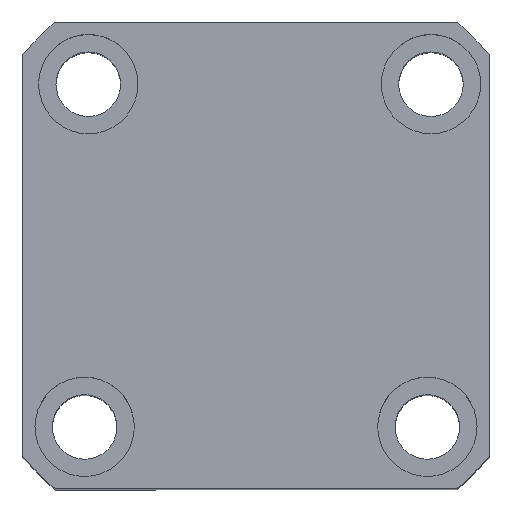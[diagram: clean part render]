
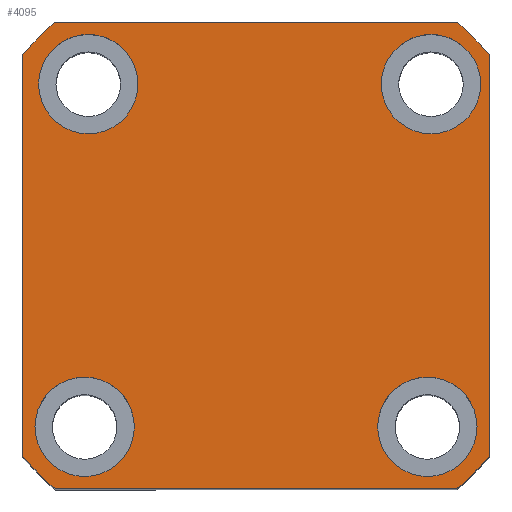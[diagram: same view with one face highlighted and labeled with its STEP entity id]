
A CAD part, top view. The second image highlights one B-rep face of the part: STEP entity #4095.
In plain terms, the highlighted planar face has unit normal (0, 0, 1) as drawn and (0, 0, -1) by its records, which use the part's own axes.
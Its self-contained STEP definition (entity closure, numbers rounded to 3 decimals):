
#58 = ORIENTED_EDGE ( 'NONE', *, *, #12241, .F. ) ;
#103 = ORIENTED_EDGE ( 'NONE', *, *, #7508, .F. ) ;
#140 = EDGE_LOOP ( 'NONE', ( #408, #8925 ) ) ;
#391 = AXIS2_PLACEMENT_3D ( 'NONE', #845, #10479, #2221 ) ;
#408 = ORIENTED_EDGE ( 'NONE', *, *, #485, .F. ) ;
#485 = EDGE_CURVE ( 'NONE', #13606, #10809, #4936, .T. ) ;
#517 = DIRECTION ( 'NONE',  ( -1., 0., 0. ) ) ;
#612 = EDGE_CURVE ( 'NONE', #14435, #7527, #15047, .T. ) ;
#819 = DIRECTION ( 'NONE',  ( 0., 0., 1. ) ) ;
#845 = CARTESIAN_POINT ( 'NONE',  ( -34.5, 34.5, 0. ) ) ;
#1232 = CIRCLE ( 'NONE', #9742, 10. ) ;
#1490 = CARTESIAN_POINT ( 'NONE',  ( -40.435, -47., 0. ) ) ;
#1512 = VERTEX_POINT ( 'NONE', #6858 ) ;
#1881 = AXIS2_PLACEMENT_3D ( 'NONE', #9570, #13726, #5485 ) ;
#1900 = CARTESIAN_POINT ( 'NONE',  ( -47., 47., 0. ) ) ;
#1910 = CIRCLE ( 'NONE', #17753, 62. ) ;
#1935 = VECTOR ( 'NONE', #16812, 1000. ) ;
#2221 = DIRECTION ( 'NONE',  ( -1., 0., 0. ) ) ;
#2270 = ORIENTED_EDGE ( 'NONE', *, *, #6097, .F. ) ;
#2274 = FACE_BOUND ( 'NONE', #14726, .T. ) ;
#2352 = CIRCLE ( 'NONE', #12773, 62. ) ;
#2635 = CARTESIAN_POINT ( 'NONE',  ( 0., 0., 0. ) ) ;
#2660 = CARTESIAN_POINT ( 'NONE',  ( -34.5, 34.5, 0. ) ) ;
#2683 = ORIENTED_EDGE ( 'NONE', *, *, #13703, .F. ) ;
#2687 = PLANE ( 'NONE',  #1881 ) ;
#3280 = AXIS2_PLACEMENT_3D ( 'NONE', #14924, #6692, #16295 ) ;
#3399 = CARTESIAN_POINT ( 'NONE',  ( 44.5, 34.5, 0. ) ) ;
#3621 = EDGE_CURVE ( 'NONE', #15994, #12760, #5749, .T. ) ;
#3732 = AXIS2_PLACEMENT_3D ( 'NONE', #12598, #4346, #13984 ) ;
#3750 = AXIS2_PLACEMENT_3D ( 'NONE', #15710, #7487, #17078 ) ;
#3769 = CARTESIAN_POINT ( 'NONE',  ( -43.77, -34.5, 0. ) ) ;
#3773 = DIRECTION ( 'NONE',  ( -1., 0., 0. ) ) ;
#3941 = CARTESIAN_POINT ( 'NONE',  ( 35.23, -34.5, 0. ) ) ;
#4039 = DIRECTION ( 'NONE',  ( 1., 0., 0. ) ) ;
#4095 = ADVANCED_FACE ( 'NONE', ( #10050, #17742, #13279, #2274, #5957 ), #2687, .F. ) ;
#4240 = EDGE_CURVE ( 'NONE', #1512, #5187, #12406, .T. ) ;
#4346 = DIRECTION ( 'NONE',  ( 0., 0., -1. ) ) ;
#4391 = ORIENTED_EDGE ( 'NONE', *, *, #8274, .F. ) ;
#4617 = EDGE_LOOP ( 'NONE', ( #58, #4945 ) ) ;
#4651 = DIRECTION ( 'NONE',  ( 0., -1., 0. ) ) ;
#4936 = CIRCLE ( 'NONE', #7269, 10. ) ;
#4945 = ORIENTED_EDGE ( 'NONE', *, *, #3621, .F. ) ;
#5187 = VERTEX_POINT ( 'NONE', #12182 ) ;
#5225 = CARTESIAN_POINT ( 'NONE',  ( 34.5, 34.5, 0. ) ) ;
#5317 = DIRECTION ( 'NONE',  ( -1., 0., 0. ) ) ;
#5468 = ORIENTED_EDGE ( 'NONE', *, *, #7071, .F. ) ;
#5485 = DIRECTION ( 'NONE',  ( 1., 0., 0. ) ) ;
#5532 = CIRCLE ( 'NONE', #3280, 62. ) ;
#5598 = CIRCLE ( 'NONE', #6394, 62. ) ;
#5749 = CIRCLE ( 'NONE', #7401, 10. ) ;
#5950 = VERTEX_POINT ( 'NONE', #7651 ) ;
#5957 = FACE_OUTER_BOUND ( 'NONE', #16729, .T. ) ;
#6097 = EDGE_CURVE ( 'NONE', #7466, #5950, #1910, .T. ) ;
#6121 = ORIENTED_EDGE ( 'NONE', *, *, #17392, .F. ) ;
#6394 = AXIS2_PLACEMENT_3D ( 'NONE', #2635, #12286, #4039 ) ;
#6617 = DIRECTION ( 'NONE',  ( -1., 0., 0. ) ) ;
#6692 = DIRECTION ( 'NONE',  ( 0., 0., 1. ) ) ;
#6854 = LINE ( 'NONE', #16156, #10092 ) ;
#6858 = CARTESIAN_POINT ( 'NONE',  ( 45.23, -34.5, 0. ) ) ;
#6878 = AXIS2_PLACEMENT_3D ( 'NONE', #5225, #14854, #6617 ) ;
#7071 = EDGE_CURVE ( 'NONE', #5187, #1512, #1232, .T. ) ;
#7269 = AXIS2_PLACEMENT_3D ( 'NONE', #2660, #13011, #3773 ) ;
#7401 = AXIS2_PLACEMENT_3D ( 'NONE', #17005, #8795, #517 ) ;
#7466 = VERTEX_POINT ( 'NONE', #14738 ) ;
#7487 = DIRECTION ( 'NONE',  ( 0., 0., -1. ) ) ;
#7508 = EDGE_CURVE ( 'NONE', #5950, #9751, #6854, .T. ) ;
#7519 = LINE ( 'NONE', #1900, #7933 ) ;
#7527 = VERTEX_POINT ( 'NONE', #17518 ) ;
#7562 = EDGE_CURVE ( 'NONE', #7527, #14435, #16957, .T. ) ;
#7651 = CARTESIAN_POINT ( 'NONE',  ( 47., -40.435, 0. ) ) ;
#7762 = DIRECTION ( 'NONE',  ( 0., 0., 1. ) ) ;
#7933 = VECTOR ( 'NONE', #11535, 1000. ) ;
#7947 = DIRECTION ( 'NONE',  ( 0., 1., 0. ) ) ;
#8274 = EDGE_CURVE ( 'NONE', #10954, #12988, #7519, .T. ) ;
#8795 = DIRECTION ( 'NONE',  ( 0., 0., -1. ) ) ;
#8925 = ORIENTED_EDGE ( 'NONE', *, *, #11475, .F. ) ;
#9088 = CARTESIAN_POINT ( 'NONE',  ( 0., 0., 0. ) ) ;
#9098 = AXIS2_PLACEMENT_3D ( 'NONE', #9311, #9370, #10681 ) ;
#9311 = CARTESIAN_POINT ( 'NONE',  ( 34.5, 34.5, 0. ) ) ;
#9370 = DIRECTION ( 'NONE',  ( 0., 0., -1. ) ) ;
#9432 = EDGE_CURVE ( 'NONE', #14541, #11891, #5532, .T. ) ;
#9480 = CARTESIAN_POINT ( 'NONE',  ( -40.435, 47., 0. ) ) ;
#9570 = CARTESIAN_POINT ( 'NONE',  ( 0., 0., 0. ) ) ;
#9742 = AXIS2_PLACEMENT_3D ( 'NONE', #3941, #13577, #5317 ) ;
#9751 = VERTEX_POINT ( 'NONE', #16612 ) ;
#9871 = CARTESIAN_POINT ( 'NONE',  ( -23.77, -34.5, 0. ) ) ;
#10050 = FACE_BOUND ( 'NONE', #10666, .T. ) ;
#10092 = VECTOR ( 'NONE', #7947, 1000. ) ;
#10458 = DIRECTION ( 'NONE',  ( 1., 0., 0. ) ) ;
#10479 = DIRECTION ( 'NONE',  ( 0., 0., -1. ) ) ;
#10666 = EDGE_LOOP ( 'NONE', ( #5468, #14313 ) ) ;
#10681 = DIRECTION ( 'NONE',  ( -1., 0., 0. ) ) ;
#10809 = VERTEX_POINT ( 'NONE', #17672 ) ;
#10954 = VERTEX_POINT ( 'NONE', #10957 ) ;
#10957 = CARTESIAN_POINT ( 'NONE',  ( 40.435, 47., 0. ) ) ;
#11340 = ORIENTED_EDGE ( 'NONE', *, *, #13549, .F. ) ;
#11475 = EDGE_CURVE ( 'NONE', #10809, #13606, #13375, .T. ) ;
#11515 = CARTESIAN_POINT ( 'NONE',  ( -47., 47., 0. ) ) ;
#11535 = DIRECTION ( 'NONE',  ( -1., 0., 0. ) ) ;
#11760 = CARTESIAN_POINT ( 'NONE',  ( -47., -40.435, 0. ) ) ;
#11891 = VERTEX_POINT ( 'NONE', #1490 ) ;
#12182 = CARTESIAN_POINT ( 'NONE',  ( 25.23, -34.5, 0. ) ) ;
#12241 = EDGE_CURVE ( 'NONE', #12760, #15994, #14036, .T. ) ;
#12286 = DIRECTION ( 'NONE',  ( 0., 0., 1. ) ) ;
#12394 = ORIENTED_EDGE ( 'NONE', *, *, #7562, .F. ) ;
#12406 = CIRCLE ( 'NONE', #3732, 10. ) ;
#12598 = CARTESIAN_POINT ( 'NONE',  ( 35.23, -34.5, 0. ) ) ;
#12760 = VERTEX_POINT ( 'NONE', #3769 ) ;
#12773 = AXIS2_PLACEMENT_3D ( 'NONE', #9088, #819, #10458 ) ;
#12944 = LINE ( 'NONE', #15498, #1935 ) ;
#12988 = VERTEX_POINT ( 'NONE', #9480 ) ;
#13011 = DIRECTION ( 'NONE',  ( 0., 0., -1. ) ) ;
#13279 = FACE_BOUND ( 'NONE', #140, .T. ) ;
#13375 = CIRCLE ( 'NONE', #391, 10. ) ;
#13549 = EDGE_CURVE ( 'NONE', #11891, #7466, #12944, .T. ) ;
#13577 = DIRECTION ( 'NONE',  ( 0., 0., -1. ) ) ;
#13606 = VERTEX_POINT ( 'NONE', #16925 ) ;
#13699 = ORIENTED_EDGE ( 'NONE', *, *, #9432, .F. ) ;
#13703 = EDGE_CURVE ( 'NONE', #12988, #16953, #5598, .T. ) ;
#13726 = DIRECTION ( 'NONE',  ( 0., 0., 1. ) ) ;
#13984 = DIRECTION ( 'NONE',  ( -1., 0., 0. ) ) ;
#14036 = CIRCLE ( 'NONE', #3750, 10. ) ;
#14313 = ORIENTED_EDGE ( 'NONE', *, *, #4240, .F. ) ;
#14435 = VERTEX_POINT ( 'NONE', #3399 ) ;
#14541 = VERTEX_POINT ( 'NONE', #11760 ) ;
#14726 = EDGE_LOOP ( 'NONE', ( #12394, #17738 ) ) ;
#14738 = CARTESIAN_POINT ( 'NONE',  ( 40.435, -47., 0. ) ) ;
#14854 = DIRECTION ( 'NONE',  ( 0., 0., -1. ) ) ;
#14924 = CARTESIAN_POINT ( 'NONE',  ( 0., 0., 0. ) ) ;
#14994 = CARTESIAN_POINT ( 'NONE',  ( -47., 40.435, 0. ) ) ;
#15047 = CIRCLE ( 'NONE', #9098, 10. ) ;
#15498 = CARTESIAN_POINT ( 'NONE',  ( -47., -47., 0. ) ) ;
#15710 = CARTESIAN_POINT ( 'NONE',  ( -33.77, -34.5, 0. ) ) ;
#15976 = CARTESIAN_POINT ( 'NONE',  ( 0., 0., 0. ) ) ;
#15994 = VERTEX_POINT ( 'NONE', #9871 ) ;
#16156 = CARTESIAN_POINT ( 'NONE',  ( 47., 47., 0. ) ) ;
#16295 = DIRECTION ( 'NONE',  ( 1., 0., 0. ) ) ;
#16389 = EDGE_CURVE ( 'NONE', #9751, #10954, #2352, .T. ) ;
#16612 = CARTESIAN_POINT ( 'NONE',  ( 47., 40.435, 0. ) ) ;
#16729 = EDGE_LOOP ( 'NONE', ( #17080, #103, #2270, #11340, #13699, #6121, #2683, #4391 ) ) ;
#16781 = VECTOR ( 'NONE', #4651, 1000. ) ;
#16812 = DIRECTION ( 'NONE',  ( 1., 0., 0. ) ) ;
#16925 = CARTESIAN_POINT ( 'NONE',  ( -44.5, 34.5, 0. ) ) ;
#16953 = VERTEX_POINT ( 'NONE', #14994 ) ;
#16957 = CIRCLE ( 'NONE', #6878, 10. ) ;
#17005 = CARTESIAN_POINT ( 'NONE',  ( -33.77, -34.5, 0. ) ) ;
#17078 = DIRECTION ( 'NONE',  ( -1., 0., 0. ) ) ;
#17080 = ORIENTED_EDGE ( 'NONE', *, *, #16389, .F. ) ;
#17205 = LINE ( 'NONE', #11515, #16781 ) ;
#17338 = DIRECTION ( 'NONE',  ( 1., 0., 0. ) ) ;
#17392 = EDGE_CURVE ( 'NONE', #16953, #14541, #17205, .T. ) ;
#17518 = CARTESIAN_POINT ( 'NONE',  ( 24.5, 34.5, 0. ) ) ;
#17672 = CARTESIAN_POINT ( 'NONE',  ( -24.5, 34.5, 0. ) ) ;
#17738 = ORIENTED_EDGE ( 'NONE', *, *, #612, .F. ) ;
#17742 = FACE_BOUND ( 'NONE', #4617, .T. ) ;
#17753 = AXIS2_PLACEMENT_3D ( 'NONE', #15976, #7762, #17338 ) ;
